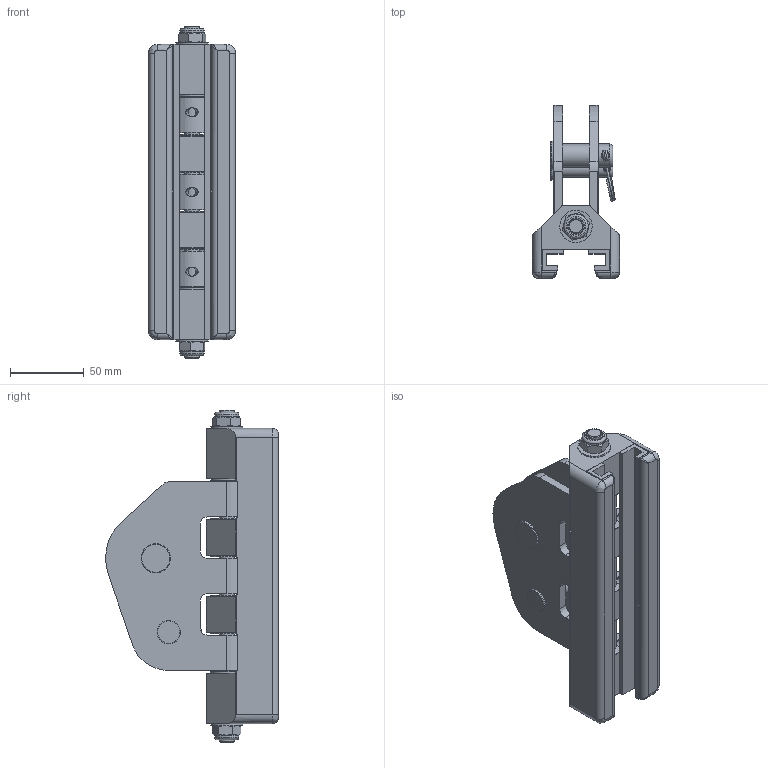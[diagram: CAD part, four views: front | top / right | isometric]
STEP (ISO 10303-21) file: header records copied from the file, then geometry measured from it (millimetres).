
FILE_DESCRIPTION(/* description */ (''),/* implementation_level */ '2;1');
FILE_NAME(/* name */ 'D:\Utenti\lucade\Desktop\672.004.stp',/* time_stamp */ '2022-03-21T12:12:46+01:00',/* author */ ('lucade'),/* organization */ (''),/* preprocessor_version */ 'ST-DEVELOPER v18.1',/* originating_system */ 'Autodesk Inventor 2021',/* authorisation */ '');
FILE_SCHEMA (('AUTOMOTIVE_DESIGN { 1 0 10303 214 3 1 1 }'));
Length unit declared in the file: millimetre
Products named in the file (1): 17112709
Bounding box: 59 x 117.06 x 225 mm (x, y, z)
Volume: 427463 mm3; surface area: 159036.2 mm2
Topology: 22 solids, 24 shells, 501 faces, 1233 edges, 757 vertices
Faces by surface type: plane 169, cylinder 165, torus 64, bspline 49, cone 42, sphere 12
Full cylindrical faces by diameter (mm): 4 x2, 8.5 x4, 10 x1, 10.1 x4, 10.2 x5, 10.4 x6, 11.5 x2, 11.85 x1, 12 x2, 15.5 x2, 15.85 x2, 16.2 x2, 16.5 x2, 18 x3, 19.85 x1, 22 x8
Entity records: 18099 total; most frequent: CARTESIAN_POINT 6205, DIRECTION 2520, ORIENTED_EDGE 2436, EDGE_CURVE 1218, AXIS2_PLACEMENT_3D 985, VERTEX_POINT 757, EDGE_LOOP 562, LINE 550
